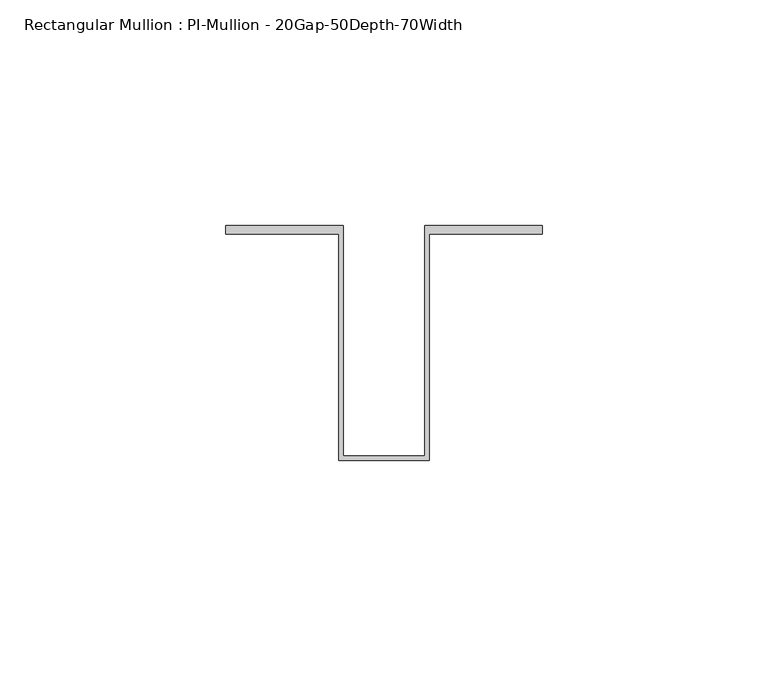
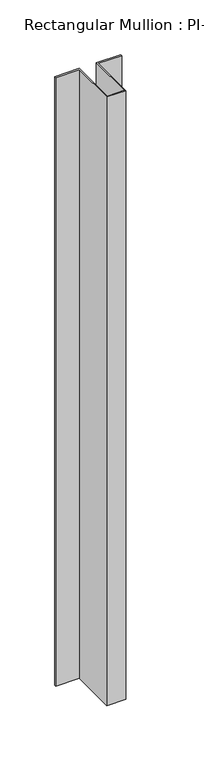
"""IFC4 building model written with IfcOpenShell, lengths in millimetres: member geometry, Rectangular Mullion : PI-Mullion - 20Gap-50Depth-70Width."""

import ifcopenshell
import ifcopenshell.guid

model = None  # the IFC model being written
_history = None  # IfcOwnerHistory: only IFC2X3 demands one
_inside = {}  # id of a spatial element -> (the spatial element, [elements in it])
_under = {}  # id of a project, library or spatial element -> (it, [spatial elements below it])
_declared = {}  # id of a project -> (the project, [libraries it declares])
_typed = {}  # id of a type object -> (the type object, [elements of that type])
_made_of = {}  # id of a material, layer set ... -> (it, [elements and type objects made of it])


def new_model(schema):
    """Start an empty IFC model of exactly this schema.

    Asked for "IFC4X3", IfcOpenShell would pick the latest addendum, in which some entities
    have other attributes; the version numbers below select the first issue.
    IFC2X3 requires an IfcOwnerHistory on every rooted entity: one is made here for all.
    """
    global model, _history
    if schema == "IFC4X3":
        model = ifcopenshell.file(schema_version=(4, 3, 0, 0))
    else:
        model = ifcopenshell.file(schema=schema)
    _inside.clear()
    _under.clear()
    _declared.clear()
    _typed.clear()
    _made_of.clear()
    _history = None
    if model.schema == "IFC2X3":
        org = make("IfcOrganization", Name="unknown")
        user = make(
            "IfcPersonAndOrganization",
            ThePerson=make("IfcPerson", FamilyName="unknown"),
            TheOrganization=org,
        )
        app = make(
            "IfcApplication",
            ApplicationDeveloper=org,
            Version="unknown",
            ApplicationFullName="unknown",
            ApplicationIdentifier="unknown",
        )
        _history = make(
            "IfcOwnerHistory",
            OwningUser=user,
            OwningApplication=app,
            ChangeAction="ADDED",
            CreationDate=0,
        )
    return model


def make(cls, **values):
    """One entity of the class cls with the attributes given. An attribute that is None is left unset."""
    return model.create_entity(
        cls, **{name: value for name, value in values.items() if value is not None}
    )


def rooted(cls, **values):
    """An entity with a GlobalId (a new one), such as an element, a storey or a relation."""
    return make(cls, GlobalId=ifcopenshell.guid.new(), OwnerHistory=_history, **values)


def si_unit(unit_type, name, prefix=None):
    """IfcSIUnit, for example si_unit("LENGTHUNIT", "METRE", prefix="MILLI")."""
    return make("IfcSIUnit", UnitType=unit_type, Prefix=prefix, Name=name)


def assignment(units):
    """IfcUnitAssignment: the units of a project."""
    return None if units is None else make("IfcUnitAssignment", Units=units)


def point(xyz):
    """IfcCartesianPoint."""
    return None if xyz is None else make("IfcCartesianPoint", Coordinates=xyz)


def direction(xyz):
    """IfcDirection."""
    return None if xyz is None else make("IfcDirection", DirectionRatios=xyz)


def frame(location, z_axis=None, x_axis=None):
    """IfcAxis2Placement3D, a coordinate frame: its origin and axes. An axis left out is left unset."""
    return make(
        "IfcAxis2Placement3D",
        Location=point(location),
        Axis=direction(z_axis),
        RefDirection=direction(x_axis),
    )


def origin():
    """The frame at (0, 0, 0) with its axes left unset."""
    return frame((0.0, 0.0, 0.0))


def place(relative_to, where):
    """IfcLocalPlacement: puts the frame where relative to a parent placement (None: the world)."""
    return make(
        "IfcLocalPlacement", PlacementRelTo=relative_to, RelativePlacement=where
    )


def context(
    kind, dimensions, precision=None, world=None, true_north=None, identifier=None
):
    """IfcGeometricRepresentationContext, for example the 3D "Model" context."""
    return make(
        "IfcGeometricRepresentationContext",
        ContextIdentifier=identifier,
        ContextType=kind,
        CoordinateSpaceDimension=dimensions,
        Precision=precision,
        WorldCoordinateSystem=world,
        TrueNorth=true_north,
    )


def project(units=None, contexts=None):
    """IfcProject with its units and contexts."""
    return rooted(
        "IfcProject",
        Name="project",
        RepresentationContexts=contexts,
        UnitsInContext=assignment(units),
    )


def spatial(cls, under=None, at=None, **own):
    """A site, building, storey or space (cls), placed at a placement, below another one or the project."""
    s = rooted(cls, ObjectPlacement=at, **own)
    if under is not None:
        _under.setdefault(under.id(), (under, []))[1].append(s)
    return s


def polyline(points):
    """IfcPolyline through the points."""
    return make("IfcPolyline", Points=[point(p) for p in points])


def outline(outer, holes=None, kind="AREA"):
    """IfcArbitraryClosedProfileDef: a profile drawn as a closed curve; with holes, ...WithVoids."""
    if holes is None:
        return make("IfcArbitraryClosedProfileDef", ProfileType=kind, OuterCurve=outer)
    return make(
        "IfcArbitraryProfileDefWithVoids",
        ProfileType=kind,
        OuterCurve=outer,
        InnerCurves=holes,
    )


def extrude(swept, where, along, depth):
    """IfcExtrudedAreaSolid: the profile swept, set in the frame where, extruded along a direction by depth."""
    return make(
        "IfcExtrudedAreaSolid",
        SweptArea=swept,
        Position=where,
        ExtrudedDirection=direction(along),
        Depth=depth,
    )


def shape(context_of_items, identifier, shape_type, items):
    """IfcShapeRepresentation: the items that make up one representation, for example the "Body"."""
    return make(
        "IfcShapeRepresentation",
        ContextOfItems=context_of_items,
        RepresentationIdentifier=identifier,
        RepresentationType=shape_type,
        Items=items,
    )


def source(mapping_origin, context_of_items, identifier, shape_type, items):
    """IfcRepresentationMap: a shape defined once, which mapped items show again and again."""
    return make(
        "IfcRepresentationMap",
        MappingOrigin=mapping_origin,
        MappedRepresentation=shape(context_of_items, identifier, shape_type, items),
    )


def transform(
    local_origin,
    x_axis=None,
    y_axis=None,
    z_axis=None,
    scale=None,
    scale2=None,
    scale3=None,
    uniform=True,
):
    """IfcCartesianTransformationOperator3D, or its non-uniform kind. x_axis, y_axis, z_axis: its Axis1, 2, 3."""
    if uniform:
        return make(
            "IfcCartesianTransformationOperator3D",
            Axis1=direction(x_axis),
            Axis2=direction(y_axis),
            LocalOrigin=point(local_origin),
            Scale=scale,
            Axis3=direction(z_axis),
        )
    return make(
        "IfcCartesianTransformationOperator3DnonUniform",
        Axis1=direction(x_axis),
        Axis2=direction(y_axis),
        LocalOrigin=point(local_origin),
        Scale=scale,
        Axis3=direction(z_axis),
        Scale2=scale2,
        Scale3=scale3,
    )


def mapped(mapping_source, mapping_target):
    """IfcMappedItem: shows the shape of a source again, moved by a transform."""
    return make(
        "IfcMappedItem", MappingSource=mapping_source, MappingTarget=mapping_target
    )


def made_of(thing, what):
    """Note that an element or type object is made of a material, layer set ...; save() writes the relation."""
    if what is not None:
        _made_of.setdefault(what.id(), (what, []))[1].append(thing)
    return thing


def element(
    cls,
    number,
    at=None,
    inside=None,
    cuts=None,
    type_object=None,
    material=None,
    context=None,
    identifier="Body",
    shape_type=None,
    held_by="IfcProductDefinitionShape",
    body=None,
    shapes=None,
    **own,
):
    """One element of the class cls, such as IfcWall. Its Tag is "e" and its number.

    at: its placement. inside: the storey or other place that contains it. cuts: it is an
    opening in that element (IfcRelVoidsElement). A single representation is given by context,
    identifier, shape_type and body (its items); several are given by shapes. held_by: the class
    of the entity that holds the representations. save() writes the other relations.
    """
    e = rooted(cls, Tag="e%d" % number, ObjectPlacement=at, **own)
    if body is not None:
        shapes = [shape(context, identifier, shape_type, body)]
    if shapes is not None:
        e.Representation = make(held_by, Representations=shapes)
    if inside is not None:
        _inside.setdefault(inside.id(), (inside, []))[1].append(e)
    if cuts is not None:
        rooted(
            "IfcRelVoidsElement", RelatingBuildingElement=cuts, RelatedOpeningElement=e
        )
    if type_object is not None:
        _typed.setdefault(type_object.id(), (type_object, []))[1].append(e)
    return made_of(e, material)


def aggregate(whole, parts):
    """IfcRelAggregates: a whole, such as a stair, and the parts it consists of."""
    return rooted("IfcRelAggregates", RelatingObject=whole, RelatedObjects=parts)


def save(model, path):
    """Write the relations noted so far, then the file.

    IfcRelAggregates (storeys below a building ...), IfcRelContainedInSpatialStructure (elements
    in a storey), IfcRelDefinesByType, IfcRelAssociatesMaterial and IfcRelDeclares: one each for
    every whole, place, type object, material and project.
    """
    for whole, parts in _under.values():
        aggregate(whole, parts)
    for where, things in _inside.values():
        rooted(
            "IfcRelContainedInSpatialStructure",
            RelatedElements=things,
            RelatingStructure=where,
        )
    for kind, things in _typed.values():
        rooted("IfcRelDefinesByType", RelatedObjects=things, RelatingType=kind)
    for what, things in _made_of.values():
        rooted("IfcRelAssociatesMaterial", RelatedObjects=things, RelatingMaterial=what)
    for by, libraries in _declared.values():
        rooted("IfcRelDeclares", RelatingContext=by, RelatedDefinitions=libraries)
    model.write(path)


def rectangular_mullion_pi_mullion_20gap_50depth_70width_73b7af1a(model_context):
    return source(origin(), model_context, "Body", "SweptSolid", [
        extrude(outline(polyline([(10.0, 0.2), (10.0, -50.0), (-10.0, -50.0), (-10.0, 0.2), (-35.0, 0.2), (-35.0, 2.0), (-9.0, 2.0), (-9.0, -49.0), (9.0, -49.0), (9.0, 2.0), (35.0, 2.0), (35.0, 0.2), (10.0, 0.2)])), frame((0.0, 0.0, -679.9704237), z_axis=(0.0, 0.0, 1.0), x_axis=(1.0, 0.0, 0.0)), (0.0, 0.0, 1.0), 679.9704237),
    ])


if __name__ == "__main__":
    model = new_model("IFC4")
    model_context = context("Model", 3, world=origin())
    ifc_project = project(units=[si_unit("LENGTHUNIT", "METRE", prefix="MILLI")], contexts=[model_context])
    site = spatial("IfcSite", under=ifc_project)
    building = spatial("IfcBuilding", under=site)
    placement = place(None, origin())
    rectangular_mullion_pi_mullion_20gap_50depth_70width_shape = rectangular_mullion_pi_mullion_20gap_50depth_70width_73b7af1a(model_context)
    element("IfcMember", 1, ObjectType="Rectangular Mullion : PI-Mullion - 20Gap-50Depth-70Width", at=placement, inside=building, context=model_context, shape_type="MappedRepresentation", body=[
        mapped(rectangular_mullion_pi_mullion_20gap_50depth_70width_shape, transform((0.0, 0.0, 0.0), x_axis=(1.0, 0.0, 0.0), y_axis=(0.0, 1.0, 0.0), z_axis=(0.0, 0.0, 1.0))),
    ])
    save(model, "model.ifc")
